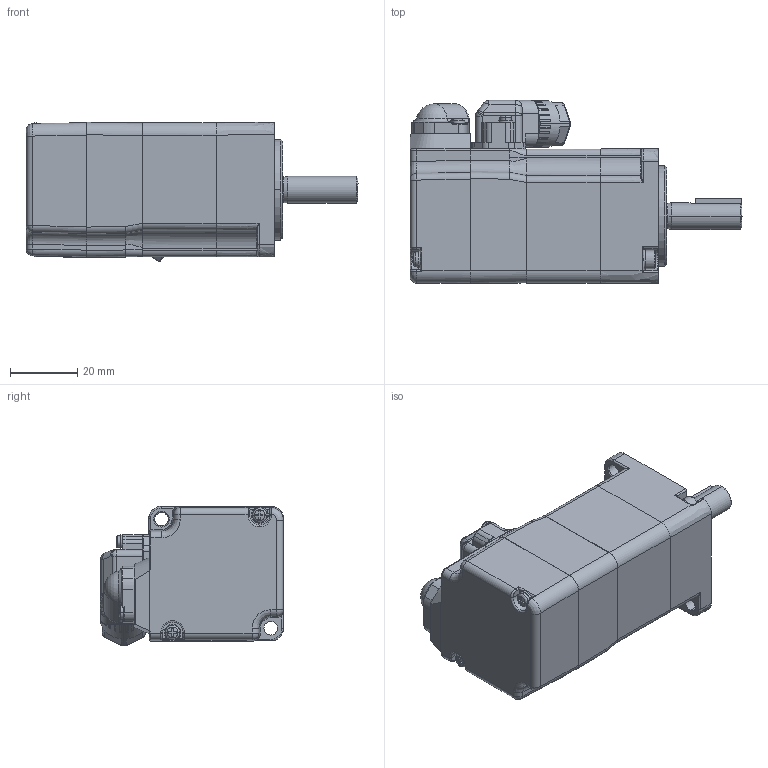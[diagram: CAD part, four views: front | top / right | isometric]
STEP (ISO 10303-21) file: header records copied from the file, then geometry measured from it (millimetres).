
FILE_DESCRIPTION( (''), '2;1');
FILE_NAME ('SGMXJ-01AUA6SC2.stp','2022-03-02T11:25:22',(''),(''),'spGate 15.6.6','','');
FILE_SCHEMA (('AUTOMOTIVE_DESIGN'));
Length unit declared in the file: millimetre
Products named in the file (10): Assembly; SGMXJ-01AUA6SC2-prt0; SGMXJ-01AUA6SC2-prt1; SGMXJ-01AUA6SC2-prt2; SGMXJ-01AUA6SC2-prt3; SGMXJ-01AUA6SC2-prt4; SGMXJ-01AUA6SC2-prt5; SGMXJ-01AUA6SC2-prt6; SGMXJ-01AUA6SC2-prt7; SGMXJ-01AUA6SC2-prt8
Assembly tree (9 placements, depth 2):
  Assembly
    SGMXJ-01AUA6SC2-prt0
    SGMXJ-01AUA6SC2-prt1
    SGMXJ-01AUA6SC2-prt2
    SGMXJ-01AUA6SC2-prt3
    SGMXJ-01AUA6SC2-prt4
    SGMXJ-01AUA6SC2-prt5
    SGMXJ-01AUA6SC2-prt6
    SGMXJ-01AUA6SC2-prt7
    SGMXJ-01AUA6SC2-prt8
Bounding box: 99 x 54.59 x 41.61 mm (x, y, z)
Volume: 119823.9 mm3; surface area: 20763.1 mm2
Topology: 4 solids, 9 shells, 708 faces, 1892 edges, 1180 vertices
Faces by surface type: plane 283, cylinder 230, bspline 174, sphere 21
Entity records: 40503 total; most frequent: CARTESIAN_POINT 9042, ORIENTED_EDGE 3650, DIRECTION 3261, COLOUR_RGB 2591, PRESENTATION_STYLE_ASSIGNMENT 2591, STYLED_ITEM 2591, EDGE_CURVE 1874, DRAUGHTING_PRE_DEFINED_CURVE_FONT 1874
